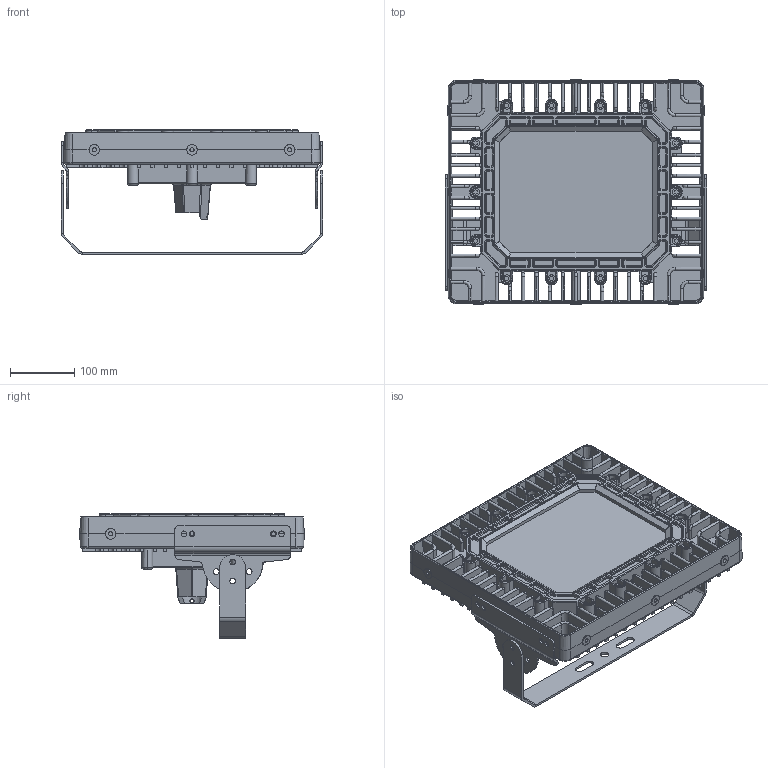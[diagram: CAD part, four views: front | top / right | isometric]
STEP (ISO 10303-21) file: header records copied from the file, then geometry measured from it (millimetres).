
FILE_DESCRIPTION (( 'STEP AP214' ), '1' );
FILE_NAME ('EPL-HB-150LED-RT.STEP', '2015-03-16T19:23:54', ( '' ), ( '' ), 'SwSTEP 2.0', 'SolidWorks 2015', '' );
FILE_SCHEMA (( 'AUTOMOTIVE_DESIGN' ));
Length unit declared in the file: inch
Products named in the file (4): EPL-HB-150LED-RT bracket long; EPL-HB-150LED-RT bracket short; EPL-HB-150LED-RT Base; EPL-HB-150LED-RT
Assembly tree (4 placements, depth 2):
  EPL-HB-150LED-RT
    EPL-HB-150LED-RT Base
    EPL-HB-150LED-RT bracket short  x2
    EPL-HB-150LED-RT bracket long
Bounding box: 408.18 x 351.79 x 194.31 mm (x, y, z)
Volume: 5518811.4 mm3; surface area: 920938.1 mm2
Topology: 4 solids, 4 shells, 2572 faces, 6791 edges, 4175 vertices
Faces by surface type: plane 1182, cylinder 999, torus 336, bspline 47, cone 8
Entity records: 81527 total; most frequent: CARTESIAN_POINT 19395, ORIENTED_EDGE 13324, DIRECTION 12868, EDGE_CURVE 6662, AXIS2_PLACEMENT_3D 4419, VERTEX_POINT 4097, VECTOR 4030, LINE 4030
